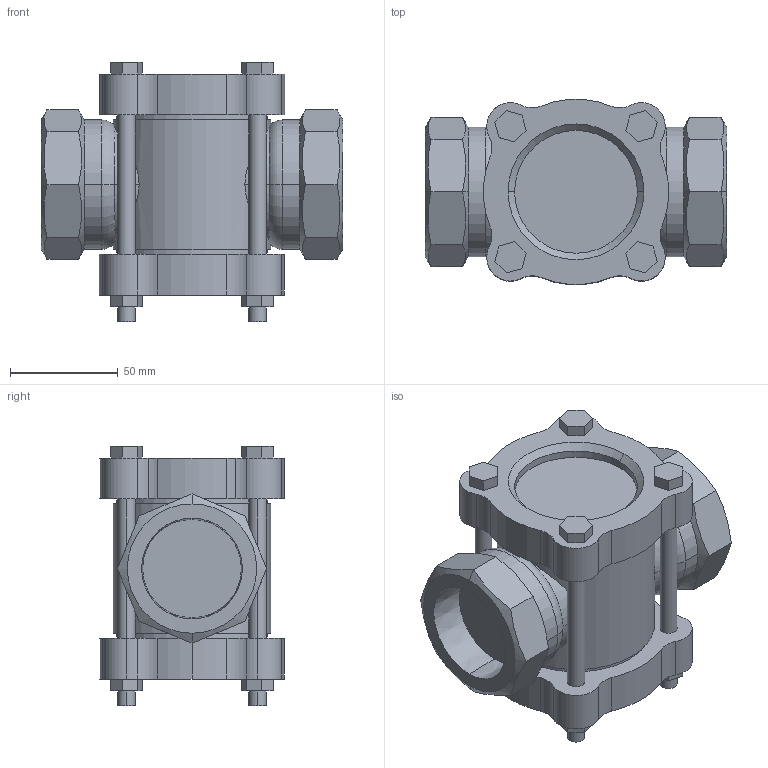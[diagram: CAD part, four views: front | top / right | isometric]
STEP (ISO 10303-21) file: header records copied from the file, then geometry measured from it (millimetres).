
FILE_DESCRIPTION (( 'STEP AP203' ), '1' );
FILE_NAME ('SF-1S 40A.STEP', '2024-09-06T01:13:37', ( '' ), ( '' ), 'SwSTEP 2.0', 'SolidWorks 2024', '' );
FILE_SCHEMA (( 'CONFIG_CONTROL_DESIGN' ));
Length unit declared in the file: millimetre
Products named in the file (1): SF-1S 40A
Bounding box: 140 x 85.74 x 120.5 mm (x, y, z)
Volume: 674037.8 mm3; surface area: 78896.3 mm2
Topology: 1 solids, 1 shells, 186 faces, 484 edges, 318 vertices
Faces by surface type: plane 88, cylinder 78, cone 16, torus 4
Entity records: 6603 total; most frequent: CARTESIAN_POINT 1859, DIRECTION 980, ORIENTED_EDGE 968, EDGE_CURVE 484, AXIS2_PLACEMENT_3D 363, VERTEX_POINT 318, LINE 254, VECTOR 254
